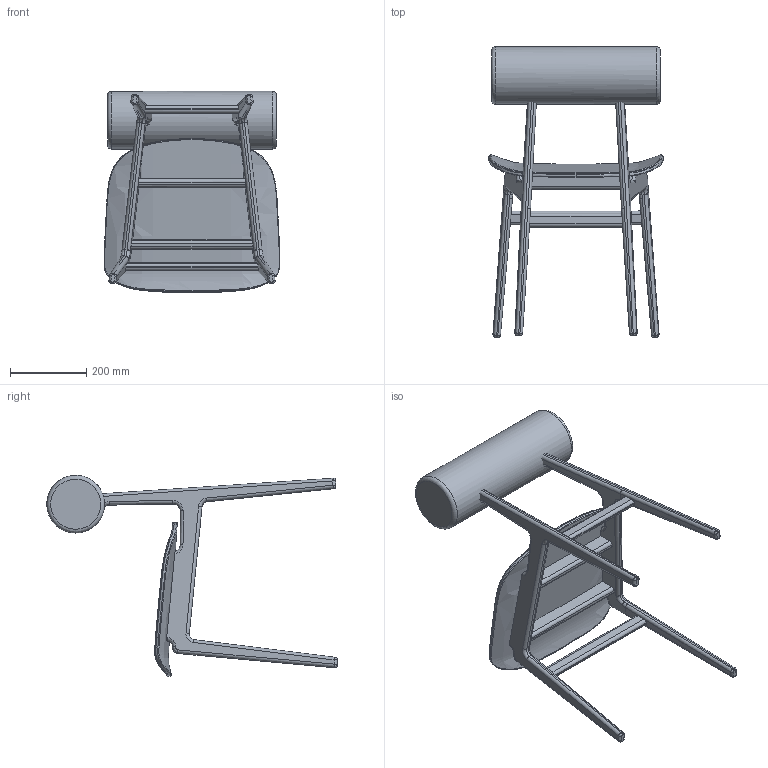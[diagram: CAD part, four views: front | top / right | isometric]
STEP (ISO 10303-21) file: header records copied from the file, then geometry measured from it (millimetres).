
FILE_DESCRIPTION(/* description */ (''),/* implementation_level */ '2;1');
FILE_NAME(/* name */ 'TOTEM_wo_seat-uph_Simplify.stp',/* time_stamp */ '2024-04-15T10:00:08+02:00',/* author */ ('UnoKofod'),/* organization */ (''),/* preprocessor_version */ 'ST-DEVELOPER v20',/* originating_system */ 'Autodesk Inventor 2024',/* authorisation */ '');
FILE_SCHEMA (('AUTOMOTIVE_DESIGN { 1 0 10303 214 3 1 1 }'));
Length unit declared in the file: millimetre
Products named in the file (2): NOR NYDC PC2023-200 - assembly - uph.seat+backrest; TOTEM_wo seat-uph_Simplify_2
Assembly tree (1 placements, depth 2):
  NOR NYDC PC2023-200 - assembly - uph.seat+backrest
    TOTEM_wo seat-uph_Simplify_2
Bounding box: 458.78 x 759.54 x 526.71 mm (x, y, z)
Volume: 13112682.7 mm3; surface area: 1047438.7 mm2
Topology: 8 solids, 8 shells, 221 faces, 621 edges, 400 vertices
Faces by surface type: cylinder 83, bspline 60, plane 52, torus 26
Full cylindrical faces by diameter (mm): 151 x1
Entity records: 40456 total; most frequent: CARTESIAN_POINT 34899, ORIENTED_EDGE 1210, DIRECTION 987, EDGE_CURVE 605, VERTEX_POINT 400, AXIS2_PLACEMENT_3D 398, STYLED_ITEM 229, FACE_OUTER_BOUND 221
